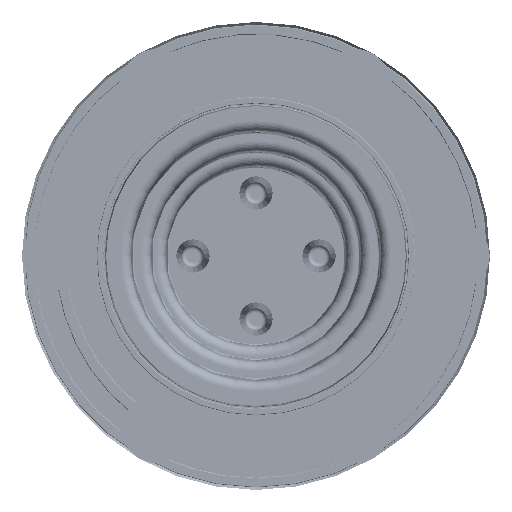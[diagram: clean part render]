
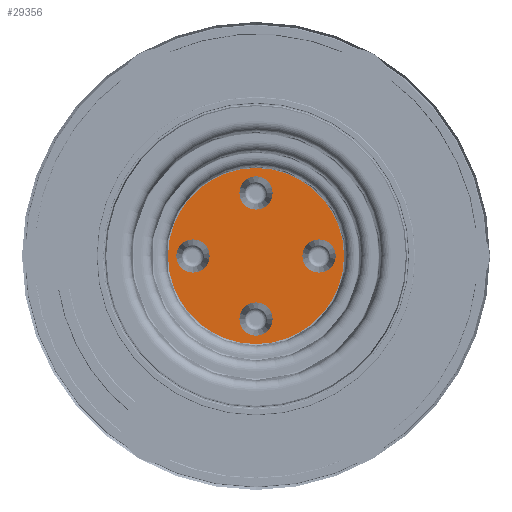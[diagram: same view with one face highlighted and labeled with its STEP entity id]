
A CAD part, front view. The second image highlights one B-rep face of the part: STEP entity #29356.
In plain terms, the highlighted planar face has unit normal (0, -1, 0).
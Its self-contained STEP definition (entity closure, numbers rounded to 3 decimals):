
#13013 = ORIENTED_EDGE ( 'NONE', *, *, #79146, .F. ) ;
#13014 = ORIENTED_EDGE ( 'NONE', *, *, #78053, .F. ) ;
#13015 = ORIENTED_EDGE ( 'NONE', *, *, #79143, .F. ) ;
#13016 = ORIENTED_EDGE ( 'NONE', *, *, #78064, .F. ) ;
#13017 = ORIENTED_EDGE ( 'NONE', *, *, #79141, .F. ) ;
#13018 = ORIENTED_EDGE ( 'NONE', *, *, #78077, .F. ) ;
#13019 = ORIENTED_EDGE ( 'NONE', *, *, #79138, .F. ) ;
#13020 = ORIENTED_EDGE ( 'NONE', *, *, #78090, .F. ) ;
#13021 = ORIENTED_EDGE ( 'NONE', *, *, #79149, .T. ) ;
#13022 = ORIENTED_EDGE ( 'NONE', *, *, #78040, .T. ) ;
#26838 = VERTEX_POINT ( 'NONE', #47301 ) ;
#26840 = VERTEX_POINT ( 'NONE', #47302 ) ;
#26848 = VERTEX_POINT ( 'NONE', #47307 ) ;
#26850 = VERTEX_POINT ( 'NONE', #47308 ) ;
#26855 = VERTEX_POINT ( 'NONE', #47311 ) ;
#26857 = VERTEX_POINT ( 'NONE', #47312 ) ;
#26862 = VERTEX_POINT ( 'NONE', #47315 ) ;
#26864 = VERTEX_POINT ( 'NONE', #47316 ) ;
#26870 = VERTEX_POINT ( 'NONE', #47319 ) ;
#26871 = VERTEX_POINT ( 'NONE', #47320 ) ;
#29356 = ADVANCED_FACE ( 'NONE', ( #48515, #48517, #48519, #48521, #48514 ), #48512, .T. ) ;
#47301 = CARTESIAN_POINT ( 'NONE',  ( 0., 92.5, -26.508 ) ) ;
#47302 = CARTESIAN_POINT ( 'NONE',  ( 0., 92.5, 26.508 ) ) ;
#47307 = CARTESIAN_POINT ( 'NONE',  ( 5.009, 92.5, -19. ) ) ;
#47308 = CARTESIAN_POINT ( 'NONE',  ( -5.009, 92.5, -19. ) ) ;
#47311 = CARTESIAN_POINT ( 'NONE',  ( 19., 92.5, 5.009 ) ) ;
#47312 = CARTESIAN_POINT ( 'NONE',  ( 19., 92.5, -5.009 ) ) ;
#47315 = CARTESIAN_POINT ( 'NONE',  ( -5.009, 92.5, 19. ) ) ;
#47316 = CARTESIAN_POINT ( 'NONE',  ( 5.009, 92.5, 19. ) ) ;
#47319 = CARTESIAN_POINT ( 'NONE',  ( -19., 92.5, -5.009 ) ) ;
#47320 = CARTESIAN_POINT ( 'NONE',  ( -19., 92.5, 5.009 ) ) ;
#48512 = PLANE ( 'NONE',  #49335 ) ;
#48514 = FACE_OUTER_BOUND ( 'NONE', #74642, .T. ) ;
#48515 = FACE_BOUND ( 'NONE', #74646, .T. ) ;
#48517 = FACE_BOUND ( 'NONE', #74637, .T. ) ;
#48518 = CARTESIAN_POINT ( 'NONE',  ( 0., 92.5, 0. ) ) ;
#48519 = FACE_BOUND ( 'NONE', #74634, .T. ) ;
#48521 = FACE_BOUND ( 'NONE', #74632, .T. ) ;
#48522 = DIRECTION ( 'NONE',  ( 0., -1., 0. ) ) ;
#48523 = DIRECTION ( 'NONE',  ( 0., 0., 1. ) ) ;
#49335 = AXIS2_PLACEMENT_3D ( 'NONE', #48518, #48522, #48523 ) ;
#52211 = CARTESIAN_POINT ( 'NONE',  ( 0., 92.5, 0. ) ) ;
#52212 = DIRECTION ( 'NONE',  ( 0., -1., 0. ) ) ;
#52213 = DIRECTION ( 'NONE',  ( 0., 0., 1. ) ) ;
#52227 = CARTESIAN_POINT ( 'NONE',  ( 0., 92.5, -19. ) ) ;
#52228 = DIRECTION ( 'NONE',  ( 0., -1., 0. ) ) ;
#52229 = DIRECTION ( 'NONE',  ( 0., 0., 1. ) ) ;
#52239 = CARTESIAN_POINT ( 'NONE',  ( 19., 92.5, 0. ) ) ;
#52240 = DIRECTION ( 'NONE',  ( 0., -1., 0. ) ) ;
#52241 = DIRECTION ( 'NONE',  ( 0., 0., 1. ) ) ;
#52251 = CARTESIAN_POINT ( 'NONE',  ( 0., 92.5, 19. ) ) ;
#52252 = DIRECTION ( 'NONE',  ( 0., -1., 0. ) ) ;
#52253 = DIRECTION ( 'NONE',  ( 0., 0., 1. ) ) ;
#52263 = CARTESIAN_POINT ( 'NONE',  ( -19., 92.5, 0. ) ) ;
#52264 = DIRECTION ( 'NONE',  ( 0., -1., 0. ) ) ;
#52265 = DIRECTION ( 'NONE',  ( 0., 0., 1. ) ) ;
#52724 = CIRCLE ( 'NONE', #52726, 26.508 ) ;
#52726 = AXIS2_PLACEMENT_3D ( 'NONE', #52211, #52212, #52213 ) ;
#52733 = CIRCLE ( 'NONE', #52735, 5.009 ) ;
#52735 = AXIS2_PLACEMENT_3D ( 'NONE', #52227, #52228, #52229 ) ;
#52739 = CIRCLE ( 'NONE', #52741, 5.009 ) ;
#52741 = AXIS2_PLACEMENT_3D ( 'NONE', #52239, #52240, #52241 ) ;
#52745 = CIRCLE ( 'NONE', #52747, 5.009 ) ;
#52747 = AXIS2_PLACEMENT_3D ( 'NONE', #52251, #52252, #52253 ) ;
#52751 = CIRCLE ( 'NONE', #52753, 5.009 ) ;
#52753 = AXIS2_PLACEMENT_3D ( 'NONE', #52263, #52264, #52265 ) ;
#53167 = CIRCLE ( 'NONE', #53170, 5.009 ) ;
#53169 = CIRCLE ( 'NONE', #53172, 5.009 ) ;
#53170 = AXIS2_PLACEMENT_3D ( 'NONE', #54512, #54513, #54514 ) ;
#53171 = CIRCLE ( 'NONE', #53174, 5.009 ) ;
#53172 = AXIS2_PLACEMENT_3D ( 'NONE', #54515, #54516, #54517 ) ;
#53173 = CIRCLE ( 'NONE', #53176, 5.009 ) ;
#53174 = AXIS2_PLACEMENT_3D ( 'NONE', #54518, #54519, #54520 ) ;
#53175 = CIRCLE ( 'NONE', #53178, 26.508 ) ;
#53176 = AXIS2_PLACEMENT_3D ( 'NONE', #54521, #54522, #54523 ) ;
#53178 = AXIS2_PLACEMENT_3D ( 'NONE', #54524, #54525, #54526 ) ;
#54512 = CARTESIAN_POINT ( 'NONE',  ( -19., 92.5, 0. ) ) ;
#54513 = DIRECTION ( 'NONE',  ( 0., -1., 0. ) ) ;
#54514 = DIRECTION ( 'NONE',  ( 0., 0., 1. ) ) ;
#54515 = CARTESIAN_POINT ( 'NONE',  ( 0., 92.5, 19. ) ) ;
#54516 = DIRECTION ( 'NONE',  ( 0., -1., 0. ) ) ;
#54517 = DIRECTION ( 'NONE',  ( 0., 0., 1. ) ) ;
#54518 = CARTESIAN_POINT ( 'NONE',  ( 19., 92.5, 0. ) ) ;
#54519 = DIRECTION ( 'NONE',  ( 0., -1., 0. ) ) ;
#54520 = DIRECTION ( 'NONE',  ( 0., 0., 1. ) ) ;
#54521 = CARTESIAN_POINT ( 'NONE',  ( 0., 92.5, -19. ) ) ;
#54522 = DIRECTION ( 'NONE',  ( 0., -1., 0. ) ) ;
#54523 = DIRECTION ( 'NONE',  ( 0., 0., 1. ) ) ;
#54524 = CARTESIAN_POINT ( 'NONE',  ( 0., 92.5, 0. ) ) ;
#54525 = DIRECTION ( 'NONE',  ( 0., -1., 0. ) ) ;
#54526 = DIRECTION ( 'NONE',  ( 0., 0., 1. ) ) ;
#74632 = EDGE_LOOP ( 'NONE', ( #13019, #13020 ) ) ;
#74634 = EDGE_LOOP ( 'NONE', ( #13017, #13018 ) ) ;
#74637 = EDGE_LOOP ( 'NONE', ( #13015, #13016 ) ) ;
#74642 = EDGE_LOOP ( 'NONE', ( #13021, #13022 ) ) ;
#74646 = EDGE_LOOP ( 'NONE', ( #13013, #13014 ) ) ;
#78040 = EDGE_CURVE ( 'NONE', #26838, #26840, #52724, .T. ) ;
#78053 = EDGE_CURVE ( 'NONE', #26848, #26850, #52733, .T. ) ;
#78064 = EDGE_CURVE ( 'NONE', #26855, #26857, #52739, .T. ) ;
#78077 = EDGE_CURVE ( 'NONE', #26862, #26864, #52745, .T. ) ;
#78090 = EDGE_CURVE ( 'NONE', #26870, #26871, #52751, .T. ) ;
#79138 = EDGE_CURVE ( 'NONE', #26871, #26870, #53167, .T. ) ;
#79141 = EDGE_CURVE ( 'NONE', #26864, #26862, #53169, .T. ) ;
#79143 = EDGE_CURVE ( 'NONE', #26857, #26855, #53171, .T. ) ;
#79146 = EDGE_CURVE ( 'NONE', #26850, #26848, #53173, .T. ) ;
#79149 = EDGE_CURVE ( 'NONE', #26840, #26838, #53175, .T. ) ;
